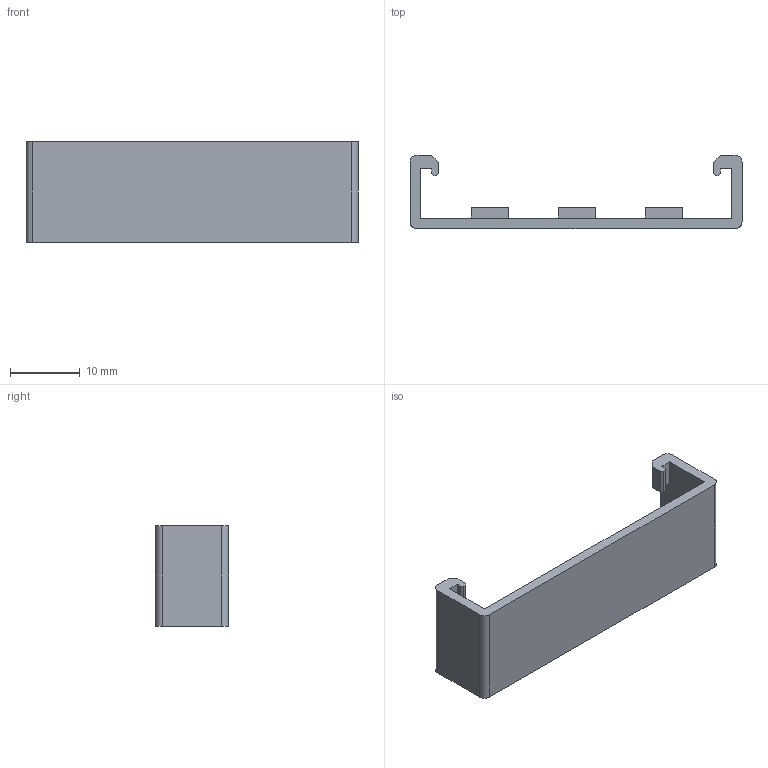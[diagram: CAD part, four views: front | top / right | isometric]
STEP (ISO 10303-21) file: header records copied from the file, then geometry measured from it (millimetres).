
FILE_DESCRIPTION(('CATIA V5 STEP Exchange'),'2;1');
FILE_NAME('C:\Users\Administrator\Desktop\气管盖板.stp','2021-02-25T05:35:49+00:00',('none'),('none'),'CATIA Version 5 Release 20 GA (IN-10)','CATIA V5 STEP AP214','none');
FILE_SCHEMA(('AUTOMOTIVE_DESIGN { 1 0 10303 214 1 1 1 1 }'));
Length unit declared in the file: millimetre
Products named in the file (1): qi guan gai ban
Bounding box: 47.7 x 10.5 x 14.5 mm (x, y, z)
Volume: 1616.8 mm3; surface area: 2408.7 mm2
Topology: 1 solids, 1 shells, 85 faces, 240 edges, 160 vertices
Faces by surface type: plane 81, cylinder 4
Entity records: 2541 total; most frequent: ORIENTED_EDGE 480, CARTESIAN_POINT 451, DIRECTION 340, EDGE_CURVE 240, VECTOR 232, LINE 232, VERTEX_POINT 160, EDGE_LOOP 88
